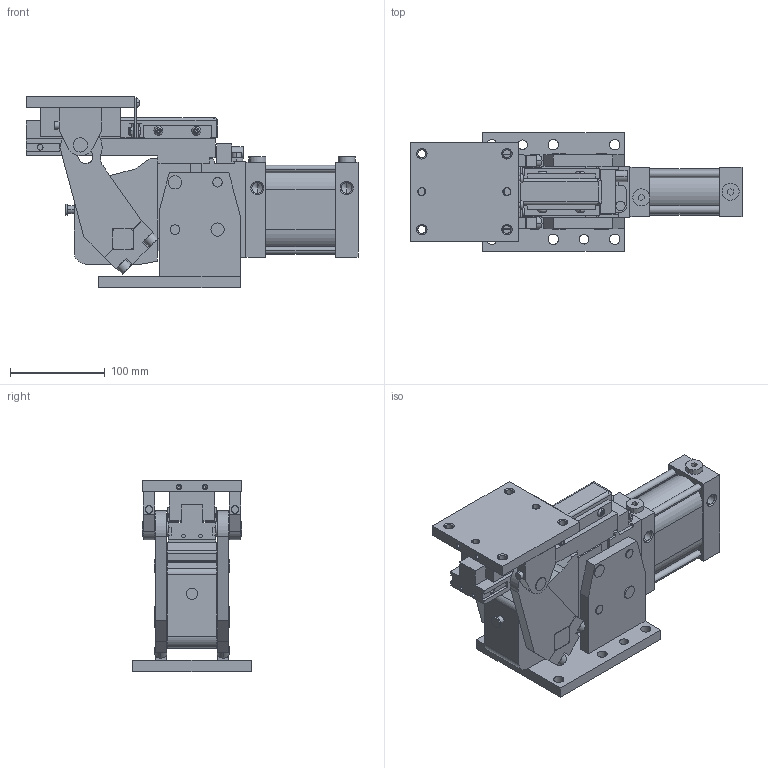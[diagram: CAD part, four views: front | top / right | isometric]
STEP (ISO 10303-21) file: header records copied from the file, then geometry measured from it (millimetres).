
FILE_DESCRIPTION (( 'STEP AP214' ), '1' );
FILE_NAME ('slcp63_90_xx_x_s2.STEP', '2019-09-19T12:50:32', ( '' ), ( '' ), 'SwSTEP 2.0', 'SolidWorks 2019', '' );
FILE_SCHEMA (( 'AUTOMOTIVE_DESIGN' ));
Length unit declared in the file: millimetre
Products named in the file (7): slcp63_90_xx_x_x; blocchetto_VEP_0; tappo cil G1_4 din908_rondella rame; slcp63_90_xx_x_s2; riparo_binario_post_slcp63; leva_slcp63; piastra_superiore_slcp63
Assembly tree (7 placements, depth 2):
  slcp63_90_xx_x_s2
    slcp63_90_xx_x_x
    piastra_superiore_slcp63
    leva_slcp63
    blocchetto_VEP_0
    tappo cil G1_4 din908_rondella rame  x2
    riparo_binario_post_slcp63
Bounding box: 351 x 125 x 202.5 mm (x, y, z)
Volume: 2676156.5 mm3; surface area: 365537.3 mm2
Topology: 28 solids, 42 shells, 1064 faces, 2597 edges, 1609 vertices
Faces by surface type: plane 495, cylinder 319, cone 230, torus 20
Entity records: 37204 total; most frequent: CARTESIAN_POINT 5872, DIRECTION 5387, ORIENTED_EDGE 4990, EDGE_CURVE 2495, AXIS2_PLACEMENT_3D 1952, VERTEX_POINT 1589, VECTOR 1483, LINE 1483
